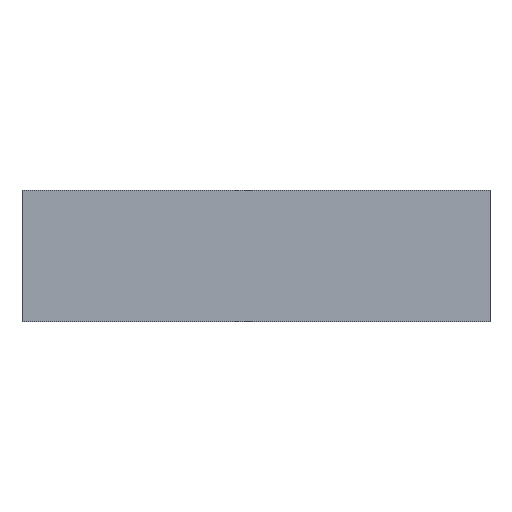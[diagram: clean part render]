
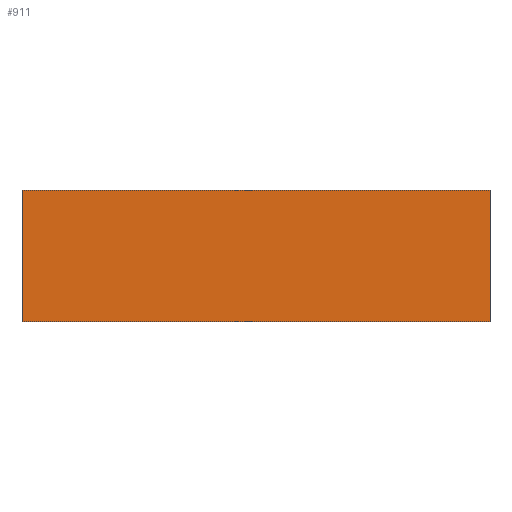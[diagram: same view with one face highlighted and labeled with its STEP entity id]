
A CAD part, top view. The second image highlights one B-rep face of the part: STEP entity #911.
In plain terms, the highlighted planar face has unit normal (0, 0, 1).
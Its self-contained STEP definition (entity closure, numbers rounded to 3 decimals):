
#446=CARTESIAN_POINT(' ',(178.,50.,10.));
#447=VERTEX_POINT(' ',#446);
#461=CARTESIAN_POINT(' ',(178.,-50.,10.));
#466=DIRECTION(' ',(0.,1.,0.));
#471=VECTOR(' ',#466,1.);
#476=LINE('',#461,#471);
#481=CARTESIAN_POINT(' ',(178.,-50.,10.));
#482=VERTEX_POINT(' ',#481);
#486=EDGE_CURVE(' ',#482,#447,#476,.T.);
#576=CARTESIAN_POINT(' ',(-178.,-50.,10.));
#581=DIRECTION(' ',(1.,0.,0.));
#586=VECTOR(' ',#581,1.);
#591=LINE('',#576,#586);
#596=CARTESIAN_POINT(' ',(-178.,-50.,10.));
#597=VERTEX_POINT(' ',#596);
#601=EDGE_CURVE(' ',#597,#482,#591,.T.);
#691=CARTESIAN_POINT(' ',(-178.,50.,10.));
#696=DIRECTION(' ',(0.,-1.,0.));
#701=VECTOR(' ',#696,1.);
#706=LINE('',#691,#701);
#711=CARTESIAN_POINT(' ',(-178.,50.,10.));
#712=VERTEX_POINT(' ',#711);
#716=EDGE_CURVE(' ',#712,#597,#706,.T.);
#806=CARTESIAN_POINT(' ',(178.,50.,10.));
#811=DIRECTION(' ',(-1.,0.,0.));
#816=VECTOR(' ',#811,1.);
#821=LINE('',#806,#816);
#826=EDGE_CURVE(' ',#447,#712,#821,.T.);
#856=DIRECTION(' ',(-0.,-0.,1.));
#861=CARTESIAN_POINT(' ',(178.,-50.,10.));
#866=DIRECTION(' ',(0.,1.,0.));
#871=AXIS2_PLACEMENT_3D(' ',#861,#856,#866);
#876=PLANE('NONE',#871);
#881=ORIENTED_EDGE(' ',*,*,#486,.T.);
#886=ORIENTED_EDGE(' ',*,*,#826,.T.);
#891=ORIENTED_EDGE(' ',*,*,#716,.T.);
#896=ORIENTED_EDGE(' ',*,*,#601,.T.);
#901=EDGE_LOOP(' ',(#881,#886,#891,#896));
#906=FACE_OUTER_BOUND(' ',#901,.T.);
#911=ADVANCED_FACE('NONE',(#906),#876,.T.);
